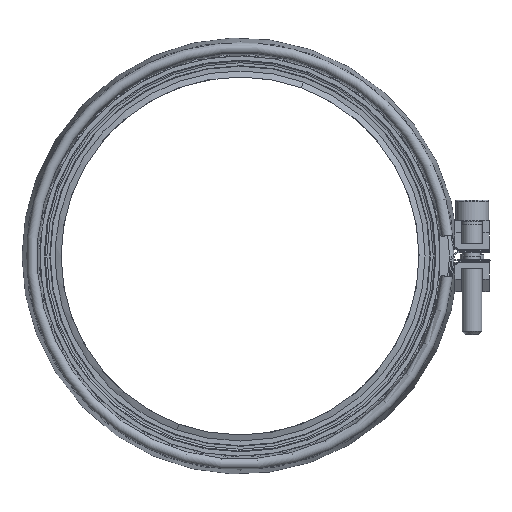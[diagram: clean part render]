
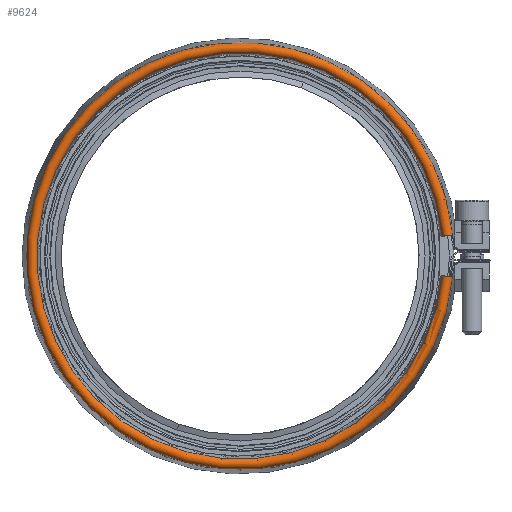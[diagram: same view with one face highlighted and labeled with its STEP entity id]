
A CAD part, left-side view. The second image highlights one B-rep face of the part: STEP entity #9624.
In plain terms, the highlighted toroidal (fillet/blend) face has major radius 82.211 mm and minor radius 2.1 mm.
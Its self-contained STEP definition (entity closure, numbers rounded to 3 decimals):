
#517=TOROIDAL_SURFACE('',#10207,82.211,2.1);
#617=B_SPLINE_CURVE_WITH_KNOTS('',3,(#14108,#14109,#14110,#14111,#14112,
#14113,#14114,#14115,#14116,#14117),.UNSPECIFIED.,.F.,.F.,(4,2,2,2,4),(-1.586,
-1.574,-1.533,-1.481,-1.439),
 .UNSPECIFIED.);
#625=B_SPLINE_CURVE_WITH_KNOTS('',3,(#14315,#14316,#14317,#14318,#14319,
#14320,#14321,#14322,#14323,#14324),.UNSPECIFIED.,.F.,.F.,(4,2,2,2,4),(-0.293,
-0.284,-0.236,-0.191,-0.153),
 .UNSPECIFIED.);
#945=CIRCLE('',#10176,84.297);
#966=CIRCLE('',#10205,2.1);
#968=CIRCLE('',#10208,80.19);
#969=CIRCLE('',#10209,2.1);
#1214=FACE_OUTER_BOUND('',#1756,.T.);
#1756=EDGE_LOOP('',(#6026,#6027,#6028,#6029,#6030,#6031));
#3483=VERTEX_POINT('',#14105);
#3484=VERTEX_POINT('',#14107);
#3485=VERTEX_POINT('',#14153);
#3506=VERTEX_POINT('',#14301);
#3510=VERTEX_POINT('',#14311);
#3511=VERTEX_POINT('',#14313);
#4485=EDGE_CURVE('',#3484,#3483,#617,.T.);
#4487=EDGE_CURVE('',#3484,#3485,#945,.T.);
#4515=EDGE_CURVE('',#3483,#3506,#966,.T.);
#4520=EDGE_CURVE('',#3506,#3510,#968,.T.);
#4521=EDGE_CURVE('',#3511,#3510,#969,.T.);
#4522=EDGE_CURVE('',#3511,#3485,#625,.T.);
#6026=ORIENTED_EDGE('',*,*,#4487,.F.);
#6027=ORIENTED_EDGE('',*,*,#4485,.T.);
#6028=ORIENTED_EDGE('',*,*,#4515,.T.);
#6029=ORIENTED_EDGE('',*,*,#4520,.T.);
#6030=ORIENTED_EDGE('',*,*,#4521,.F.);
#6031=ORIENTED_EDGE('',*,*,#4522,.T.);
#9624=ADVANCED_FACE('',(#1214),#517,.T.);
#10176=AXIS2_PLACEMENT_3D('',#14154,#11300,#11301);
#10205=AXIS2_PLACEMENT_3D('',#14302,#11359,#11360);
#10207=AXIS2_PLACEMENT_3D('',#14310,#11366,#11367);
#10208=AXIS2_PLACEMENT_3D('',#14312,#11368,#11369);
#10209=AXIS2_PLACEMENT_3D('',#14314,#11370,#11371);
#11300=DIRECTION('center_axis',(1.,0.,0.));
#11301=DIRECTION('ref_axis',(0.,-0.996,-0.091));
#11359=DIRECTION('center_axis',(0.,0.097,
-0.995));
#11360=DIRECTION('ref_axis',(-0.668,-0.741,-0.072));
#11366=DIRECTION('center_axis',(1.,0.,0.));
#11367=DIRECTION('ref_axis',(0.,-1.,0.));
#11368=DIRECTION('center_axis',(1.,0.,0.));
#11369=DIRECTION('ref_axis',(0.,1.,0.));
#11370=DIRECTION('center_axis',(0.,-0.097,
-0.995));
#11371=DIRECTION('ref_axis',(-0.668,-0.741,0.072));
#14105=CARTESIAN_POINT('',(-32.5,158.243,-137.685));
#14107=CARTESIAN_POINT('',(-31.336,157.67,-137.185));
#14108=CARTESIAN_POINT('Ctrl Pts',(-31.336,157.67,-137.185));
#14109=CARTESIAN_POINT('Ctrl Pts',(-31.362,157.676,-137.216));
#14110=CARTESIAN_POINT('Ctrl Pts',(-31.388,157.682,-137.245));
#14111=CARTESIAN_POINT('Ctrl Pts',(-31.509,157.712,-137.37));
#14112=CARTESIAN_POINT('Ctrl Pts',(-31.614,157.743,-137.45));
#14113=CARTESIAN_POINT('Ctrl Pts',(-31.87,157.837,-137.596));
#14114=CARTESIAN_POINT('Ctrl Pts',(-32.02,157.906,-137.647));
#14115=CARTESIAN_POINT('Ctrl Pts',(-32.283,158.067,-137.691));
#14116=CARTESIAN_POINT('Ctrl Pts',(-32.395,158.149,-137.695));
#14117=CARTESIAN_POINT('Ctrl Pts',(-32.5,158.243,-137.685));
#14153=CARTESIAN_POINT('',(-31.336,157.67,-121.895));
#14154=CARTESIAN_POINT('Origin',(-31.336,241.62,-129.54));
#14301=CARTESIAN_POINT('',(-31.671,161.81,-137.337));
#14302=CARTESIAN_POINT('Origin',(-31.098,159.799,-137.533));
#14310=CARTESIAN_POINT('Origin',(-31.098,241.62,-129.54));
#14311=CARTESIAN_POINT('',(-31.671,161.81,-121.743));
#14312=CARTESIAN_POINT('Origin',(-31.671,241.62,-129.54));
#14313=CARTESIAN_POINT('',(-32.5,158.243,-121.395));
#14314=CARTESIAN_POINT('Origin',(-31.098,159.799,-121.547));
#14315=CARTESIAN_POINT('Ctrl Pts',(-32.5,158.243,-121.395));
#14316=CARTESIAN_POINT('Ctrl Pts',(-32.475,158.22,-121.392));
#14317=CARTESIAN_POINT('Ctrl Pts',(-32.449,158.198,-121.391));
#14318=CARTESIAN_POINT('Ctrl Pts',(-32.293,158.071,-121.387));
#14319=CARTESIAN_POINT('Ctrl Pts',(-32.153,157.982,-121.402));
#14320=CARTESIAN_POINT('Ctrl Pts',(-31.875,157.839,-121.485));
#14321=CARTESIAN_POINT('Ctrl Pts',(-31.743,157.787,-121.547));
#14322=CARTESIAN_POINT('Ctrl Pts',(-31.515,157.713,-121.706));
#14323=CARTESIAN_POINT('Ctrl Pts',(-31.419,157.689,-121.794));
#14324=CARTESIAN_POINT('Ctrl Pts',(-31.336,157.67,-121.895));
